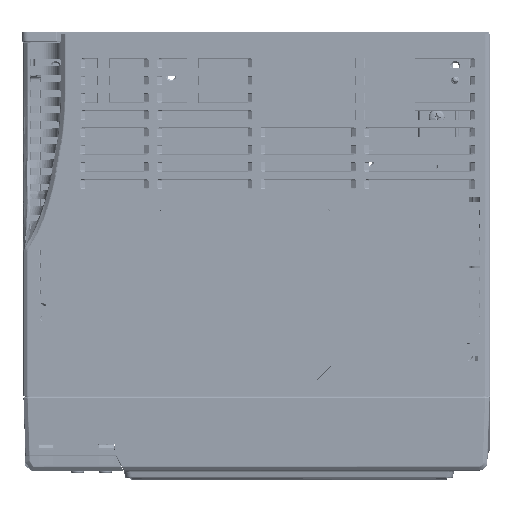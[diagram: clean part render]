
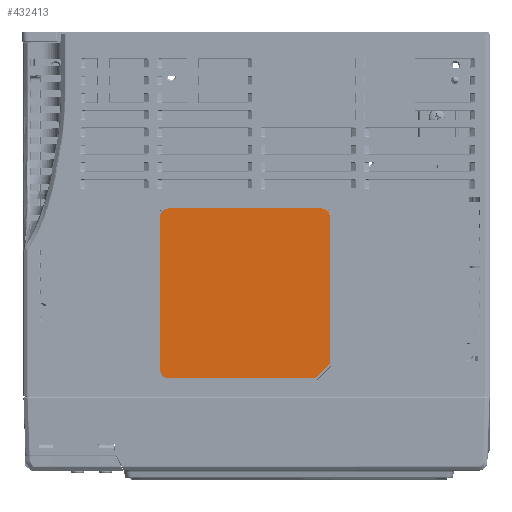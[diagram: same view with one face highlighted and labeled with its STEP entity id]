
A CAD part, front view. The second image highlights one B-rep face of the part: STEP entity #432413.
In plain terms, the highlighted planar face has unit normal (0, -1, 0) as drawn and (0, 1, 0) by its records, which use the part's own axes.
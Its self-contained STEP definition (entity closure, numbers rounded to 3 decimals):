
#432188=CARTESIAN_POINT('',(56.,0.25,-3.));
#432189=DIRECTION('',(0.,-1.,0.));
#432190=DIRECTION('',(1.,0.,0.));
#432191=AXIS2_PLACEMENT_3D('',#432188,#432189,#432190);
#432193=DIRECTION('',(-1.,0.,0.));
#432194=VECTOR('',#432193,51.);
#432195=CARTESIAN_POINT('',(56.,0.25,0.));
#432196=LINE('',#432195,#432194);
#432197=DIRECTION('',(-0.707,0.,-0.707));
#432198=VECTOR('',#432197,7.071);
#432199=CARTESIAN_POINT('',(5.,0.25,0.));
#432200=LINE('',#432199,#432198);
#432201=DIRECTION('',(0.,0.,-1.));
#432202=VECTOR('',#432201,51.);
#432203=CARTESIAN_POINT('',(0.,0.25,-5.));
#432204=LINE('',#432203,#432202);
#432205=CARTESIAN_POINT('',(3.,0.25,-56.));
#432206=DIRECTION('',(0.,-1.,0.));
#432207=DIRECTION('',(-1.,0.,0.));
#432208=AXIS2_PLACEMENT_3D('',#432205,#432206,#432207);
#432210=DIRECTION('',(1.,0.,0.));
#432211=VECTOR('',#432210,53.);
#432212=CARTESIAN_POINT('',(3.,0.25,-59.));
#432213=LINE('',#432212,#432211);
#432214=CARTESIAN_POINT('',(56.,0.25,-56.));
#432215=DIRECTION('',(0.,-1.,0.));
#432216=DIRECTION('',(0.,0.,-1.));
#432217=AXIS2_PLACEMENT_3D('',#432214,#432215,#432216);
#432219=DIRECTION('',(0.,0.,1.));
#432220=VECTOR('',#432219,53.);
#432221=CARTESIAN_POINT('',(59.,0.25,-56.));
#432222=LINE('',#432221,#432220);
#432239=CARTESIAN_POINT('',(56.,0.25,0.));
#432240=VERTEX_POINT('',#432239);
#432241=CARTESIAN_POINT('',(59.,0.25,-3.));
#432242=VERTEX_POINT('',#432241);
#432243=CARTESIAN_POINT('',(5.,0.25,0.));
#432244=VERTEX_POINT('',#432243);
#432245=CARTESIAN_POINT('',(0.,0.25,-5.));
#432246=VERTEX_POINT('',#432245);
#432247=CARTESIAN_POINT('',(0.,0.25,-56.));
#432248=VERTEX_POINT('',#432247);
#432249=CARTESIAN_POINT('',(3.,0.25,-59.));
#432250=VERTEX_POINT('',#432249);
#432251=CARTESIAN_POINT('',(56.,0.25,-59.));
#432252=VERTEX_POINT('',#432251);
#432253=CARTESIAN_POINT('',(59.,0.25,-56.));
#432254=VERTEX_POINT('',#432253);
#432398=CARTESIAN_POINT('',(0.,0.25,0.));
#432399=DIRECTION('',(0.,1.,0.));
#432400=DIRECTION('',(1.,0.,0.));
#432401=AXIS2_PLACEMENT_3D('',#432398,#432399,#432400);
#432402=PLANE('',#432401);
#432403=ORIENTED_EDGE('',*,*,#432294,.T.);
#432404=ORIENTED_EDGE('',*,*,#432310,.T.);
#432405=ORIENTED_EDGE('',*,*,#432323,.T.);
#432406=ORIENTED_EDGE('',*,*,#432336,.T.);
#432407=ORIENTED_EDGE('',*,*,#432351,.T.);
#432408=ORIENTED_EDGE('',*,*,#432364,.T.);
#432409=ORIENTED_EDGE('',*,*,#432379,.T.);
#432410=ORIENTED_EDGE('',*,*,#432391,.T.);
#432411=EDGE_LOOP('',(#432403,#432404,#432405,#432406,#432407,#432408,#432409,
#432410));
#432412=FACE_OUTER_BOUND('',#432411,.F.);
#432413=ADVANCED_FACE('',(#432412),#432402,.T.);
#432192=CIRCLE('',#432191,3.);
#432209=CIRCLE('',#432208,3.);
#432218=CIRCLE('',#432217,3.);
#432294=EDGE_CURVE('',#432242,#432240,#432192,.T.);
#432310=EDGE_CURVE('',#432240,#432244,#432196,.T.);
#432323=EDGE_CURVE('',#432244,#432246,#432200,.T.);
#432336=EDGE_CURVE('',#432246,#432248,#432204,.T.);
#432351=EDGE_CURVE('',#432248,#432250,#432209,.T.);
#432364=EDGE_CURVE('',#432250,#432252,#432213,.T.);
#432379=EDGE_CURVE('',#432252,#432254,#432218,.T.);
#432391=EDGE_CURVE('',#432254,#432242,#432222,.T.);
